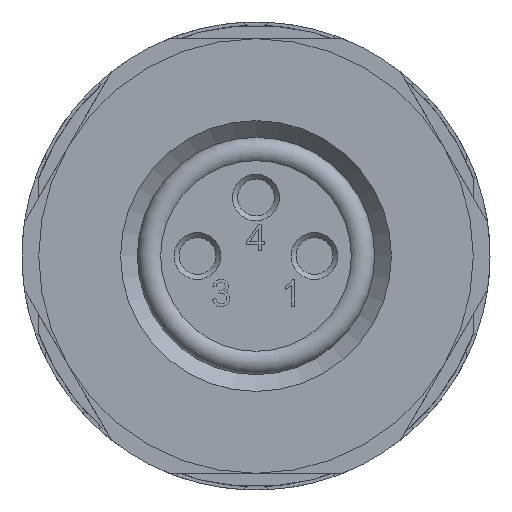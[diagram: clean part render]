
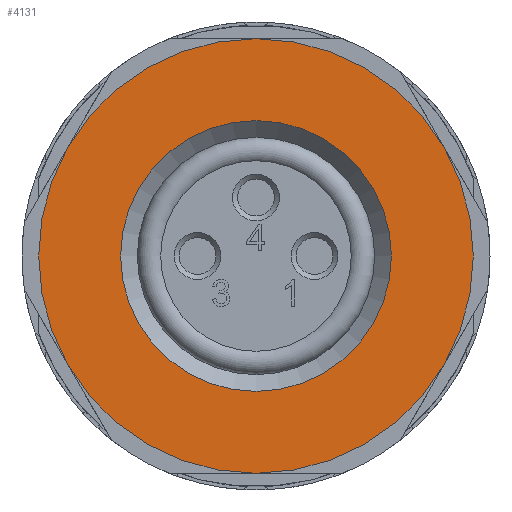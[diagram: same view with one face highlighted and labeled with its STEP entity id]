
A CAD part, left-side view. The second image highlights one B-rep face of the part: STEP entity #4131.
In plain terms, the highlighted planar face has unit normal (-1, 0, 0).
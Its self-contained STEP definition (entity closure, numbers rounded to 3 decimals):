
#73=FACE_BOUND('',#1441,.T.);
#1207=FACE_OUTER_BOUND('',#1440,.T.);
#1440=EDGE_LOOP('',(#2883));
#1441=EDGE_LOOP('',(#2884));
#1700=CIRCLE('',#4406,4.05);
#1701=CIRCLE('',#4408,6.5);
#1844=VERTEX_POINT('',#6012);
#1845=VERTEX_POINT('',#6015);
#2255=EDGE_CURVE('',#1844,#1844,#1700,.T.);
#2256=EDGE_CURVE('',#1845,#1845,#1701,.T.);
#2883=ORIENTED_EDGE('',*,*,#2256,.F.);
#2884=ORIENTED_EDGE('',*,*,#2255,.F.);
#3958=PLANE('',#4407);
#4131=ADVANCED_FACE('',(#1207,#73),#3958,.T.);
#4406=AXIS2_PLACEMENT_3D('',#6013,#4816,#4817);
#4407=AXIS2_PLACEMENT_3D('',#6014,#4818,#4819);
#4408=AXIS2_PLACEMENT_3D('',#6016,#4820,#4821);
#4816=DIRECTION('center_axis',(-1.,0.,0.));
#4817=DIRECTION('ref_axis',(0.,-1.,0.));
#4818=DIRECTION('center_axis',(-1.,0.,0.));
#4819=DIRECTION('ref_axis',(0.,0.,-1.));
#4820=DIRECTION('center_axis',(1.,0.,0.));
#4821=DIRECTION('ref_axis',(0.,1.,0.));
#6012=CARTESIAN_POINT('',(-9.8,4.05,0.));
#6013=CARTESIAN_POINT('Origin',(-9.8,0.,0.));
#6014=CARTESIAN_POINT('Origin',(-9.8,5.025,0.));
#6015=CARTESIAN_POINT('',(-9.8,6.5,0.));
#6016=CARTESIAN_POINT('Origin',(-9.8,0.,0.));
